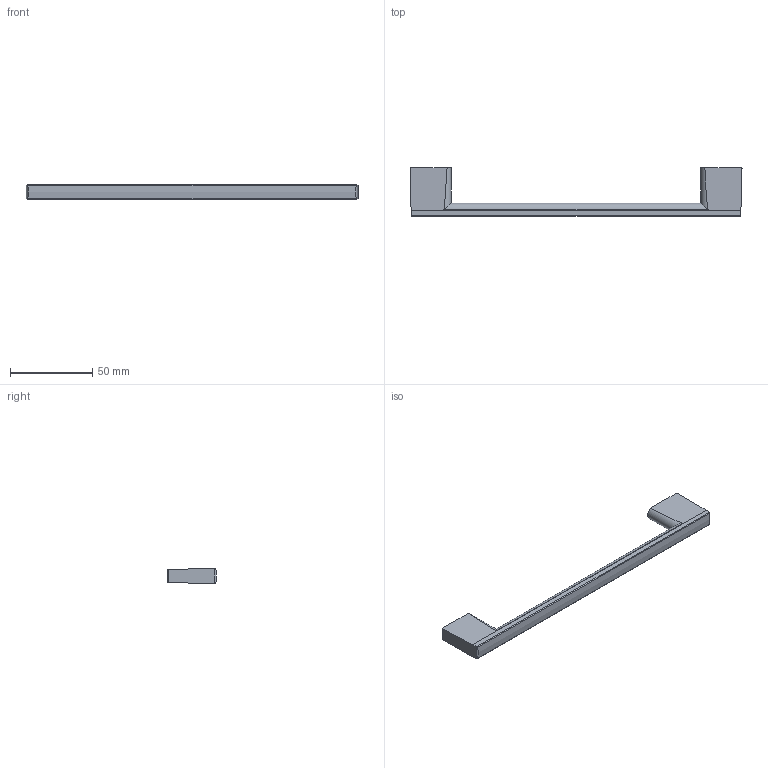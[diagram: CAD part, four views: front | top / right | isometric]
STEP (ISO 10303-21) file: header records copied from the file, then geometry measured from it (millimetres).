
FILE_DESCRIPTION( ( 'STEP AP214' ), '1' );
FILE_NAME( 'C:/Users/KOSH/Desktop/2021/Sunil/New folder/43503.stp', '2021-11-15T13:14:23', ( '' ), ( '' ), ' ', 'PARTsolutions', ' ' );
FILE_SCHEMA( ( 'AUTOMOTIVE_DESIGN { 1 0 10303 214 1 1 1 1 }' ) );
Length unit declared in the file: millimetre
Products named in the file (1): _43503
Bounding box: 201.27 x 29.6 x 9 mm (x, y, z)
Volume: 21139.8 mm3; surface area: 9371.5 mm2
Topology: 1 solids, 1 shells, 28 faces, 68 edges, 46 vertices
Faces by surface type: cylinder 15, plane 13
Full cylindrical faces by diameter (mm): 4 x4
Entity records: 1144 total; most frequent: CARTESIAN_POINT 255, DIRECTION 134, ORIENTED_EDGE 128, EDGE_CURVE 64, AXIS2_PLACEMENT_3D 53, VERTEX_POINT 46, EDGE_LOOP 36, FACE_OUTER_BOUND 32
